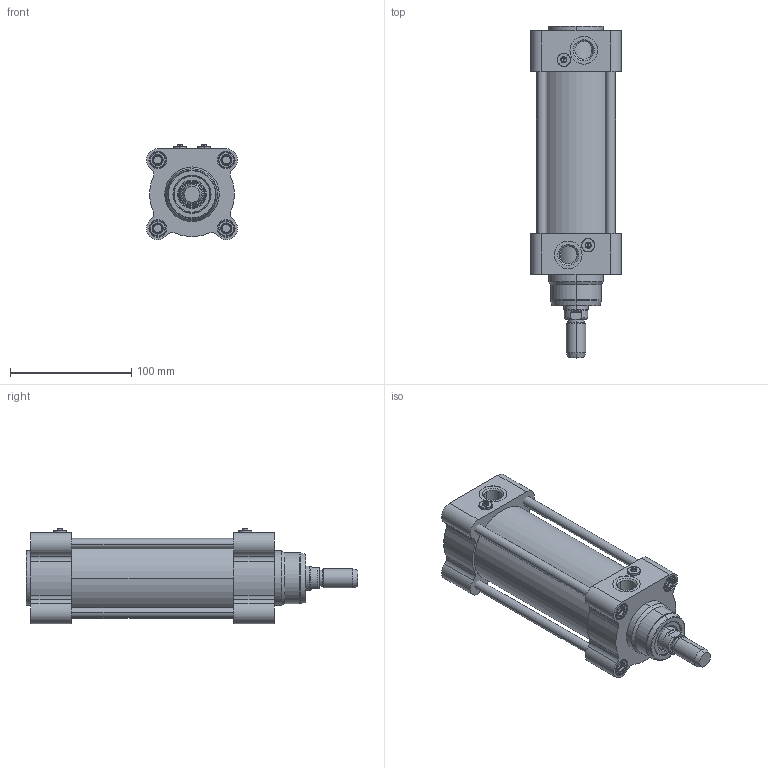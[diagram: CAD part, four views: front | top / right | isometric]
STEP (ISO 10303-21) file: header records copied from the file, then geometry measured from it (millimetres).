
FILE_DESCRIPTION (( 'STEP AP203' ), '1' );
FILE_NAME ('CTMI63-80.STEP', '2020-03-26T19:29:01', ( '' ), ( '' ), 'SwSTEP 2.0', 'SolidWorks 2019', '' );
FILE_SCHEMA (( 'CONFIG_CONTROL_DESIGN' ));
Length unit declared in the file: millimetre
Products named in the file (1): CTMI63-80
Bounding box: 74.97 x 274 x 78.68 mm (x, y, z)
Surface area: 158631.2 mm2 (no closed solid volume)
Topology: 0 solids, 24 shells, 731 faces, 1692 edges, 1048 vertices
Faces by surface type: cone 229, cylinder 203, plane 195, torus 88, bspline 16
Entity records: 23937 total; most frequent: CARTESIAN_POINT 7595, DIRECTION 3498, ORIENTED_EDGE 3336, EDGE_CURVE 1692, AXIS2_PLACEMENT_3D 1428, VERTEX_POINT 1048, EDGE_LOOP 804, ADVANCED_FACE 731
